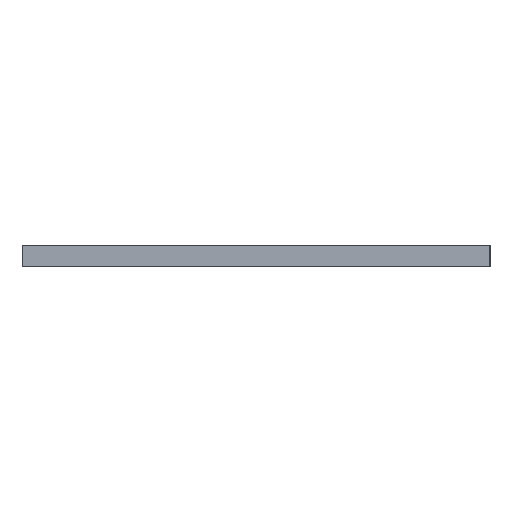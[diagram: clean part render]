
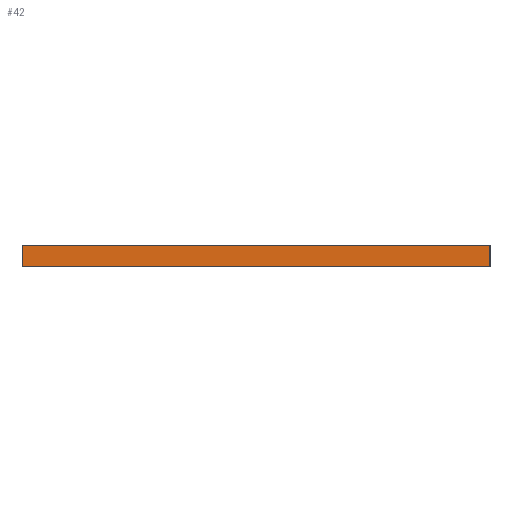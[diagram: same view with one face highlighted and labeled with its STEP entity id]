
A CAD part, left-side view. The second image highlights one B-rep face of the part: STEP entity #42.
In plain terms, the highlighted planar face has unit normal (-1, 0, 0).
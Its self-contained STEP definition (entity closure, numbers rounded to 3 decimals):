
#42=ADVANCED_FACE('',(#54),#358,.T.);
#54=FACE_OUTER_BOUND('',#66,.T.);
#66=EDGE_LOOP('',(#99,#100,#101,#102));
#99=ORIENTED_EDGE('',*,*,#251,.F.);
#100=ORIENTED_EDGE('',*,*,#255,.T.);
#101=ORIENTED_EDGE('',*,*,#256,.T.);
#102=ORIENTED_EDGE('',*,*,#257,.T.);
#143=PCURVE('',#357,#191);
#147=PCURVE('',#358,#195);
#148=PCURVE('',#358,#196);
#149=PCURVE('',#358,#197);
#150=PCURVE('',#358,#198);
#154=PCURVE('',#359,#202);
#156=PCURVE('',#360,#204);
#165=PCURVE('',#362,#213);
#191=DEFINITIONAL_REPRESENTATION('',(#300),#586);
#195=DEFINITIONAL_REPRESENTATION('',(#307),#586);
#196=DEFINITIONAL_REPRESENTATION('',(#309),#586);
#197=DEFINITIONAL_REPRESENTATION('',(#311),#586);
#198=DEFINITIONAL_REPRESENTATION('',(#313),#586);
#202=DEFINITIONAL_REPRESENTATION('',(#320),#586);
#204=DEFINITIONAL_REPRESENTATION('',(#322),#586);
#213=DEFINITIONAL_REPRESENTATION('',(#333),#586);
#227=SURFACE_CURVE('',#299,(#143,#147),.PCURVE_S1.);
#231=SURFACE_CURVE('',#308,(#148,#165),.PCURVE_S1.);
#232=SURFACE_CURVE('',#310,(#149,#154),.PCURVE_S1.);
#233=SURFACE_CURVE('',#312,(#150,#156),.PCURVE_S1.);
#251=EDGE_CURVE('',#343,#345,#227,.T.);
#255=EDGE_CURVE('',#343,#344,#231,.T.);
#256=EDGE_CURVE('',#344,#348,#232,.T.);
#257=EDGE_CURVE('',#348,#345,#233,.T.);
#299=B_SPLINE_CURVE_WITH_KNOTS('',1,(#513,#514),.UNSPECIFIED.,.F.,.F.,(2,
2),(-1940.,-990.),.UNSPECIFIED.);
#300=B_SPLINE_CURVE_WITH_KNOTS('',1,(#515,#516),.UNSPECIFIED.,.F.,.F.,(2,
2),(-1940.,-990.),.UNSPECIFIED.);
#307=B_SPLINE_CURVE_WITH_KNOTS('',1,(#529,#530),.UNSPECIFIED.,.F.,.F.,(2,
2),(-1940.,-990.),.UNSPECIFIED.);
#308=B_SPLINE_CURVE_WITH_KNOTS('',1,(#531,#532),.UNSPECIFIED.,.F.,.F.,(2,
2),(0.,20.),.UNSPECIFIED.);
#309=B_SPLINE_CURVE_WITH_KNOTS('',1,(#533,#534),.UNSPECIFIED.,.F.,.F.,(2,
2),(0.,20.),.UNSPECIFIED.);
#310=B_SPLINE_CURVE_WITH_KNOTS('',1,(#535,#536),.UNSPECIFIED.,.F.,.F.,(2,
2),(-1940.,-990.),.UNSPECIFIED.);
#311=B_SPLINE_CURVE_WITH_KNOTS('',1,(#537,#538),.UNSPECIFIED.,.F.,.F.,(2,
2),(-1940.,-990.),.UNSPECIFIED.);
#312=B_SPLINE_CURVE_WITH_KNOTS('',1,(#539,#540),.UNSPECIFIED.,.F.,.F.,(2,
2),(-20.,0.),.UNSPECIFIED.);
#313=B_SPLINE_CURVE_WITH_KNOTS('',1,(#541,#542),.UNSPECIFIED.,.F.,.F.,(2,
2),(-20.,0.),.UNSPECIFIED.);
#320=B_SPLINE_CURVE_WITH_KNOTS('',1,(#555,#556),.UNSPECIFIED.,.F.,.F.,(2,
2),(-1940.,-990.),.UNSPECIFIED.);
#322=B_SPLINE_CURVE_WITH_KNOTS('',1,(#559,#560),.UNSPECIFIED.,.F.,.F.,(2,
2),(-20.,0.),.UNSPECIFIED.);
#333=B_SPLINE_CURVE_WITH_KNOTS('',1,(#581,#582),.UNSPECIFIED.,.F.,.F.,(2,
2),(0.,20.),.UNSPECIFIED.);
#343=VERTEX_POINT('',#505);
#344=VERTEX_POINT('',#506);
#345=VERTEX_POINT('',#507);
#348=VERTEX_POINT('',#510);
#357=PLANE('',#389);
#358=PLANE('',#390);
#359=PLANE('',#391);
#360=PLANE('',#392);
#362=PLANE('',#394);
#389=AXIS2_PLACEMENT_3D('',#499,#404,$);
#390=AXIS2_PLACEMENT_3D('',#500,#405,$);
#391=AXIS2_PLACEMENT_3D('',#501,#406,$);
#392=AXIS2_PLACEMENT_3D('',#502,#407,$);
#394=AXIS2_PLACEMENT_3D('',#504,#409,$);
#404=DIRECTION('',(0.,0.,-1.));
#405=DIRECTION('',(-1.,0.,0.));
#406=DIRECTION('',(0.,0.,1.));
#407=DIRECTION('',(0.,1.,0.));
#409=DIRECTION('',(0.,-1.,0.));
#499=CARTESIAN_POINT('',(-650.,-544.,-136.));
#500=CARTESIAN_POINT('',(-650.,-544.,-136.));
#501=CARTESIAN_POINT('',(-650.,-544.,-96.));
#502=CARTESIAN_POINT('',(-650.,314.,-136.));
#504=CARTESIAN_POINT('',(-630.,-544.,-136.));
#505=CARTESIAN_POINT('',(-650.,-544.,-136.));
#506=CARTESIAN_POINT('',(-650.,-544.,-96.));
#507=CARTESIAN_POINT('',(-650.,314.,-136.));
#510=CARTESIAN_POINT('',(-650.,314.,-96.));
#513=CARTESIAN_POINT('',(-650.,-544.,-136.));
#514=CARTESIAN_POINT('',(-650.,314.,-136.));
#515=CARTESIAN_POINT('',(0.,0.));
#516=CARTESIAN_POINT('',(950.,0.));
#529=CARTESIAN_POINT('',(0.,-1940.));
#530=CARTESIAN_POINT('',(0.,-990.));
#531=CARTESIAN_POINT('',(-650.,-544.,-136.));
#532=CARTESIAN_POINT('',(-650.,-544.,-96.));
#533=CARTESIAN_POINT('',(0.,-1940.));
#534=CARTESIAN_POINT('',(20.,-1940.));
#535=CARTESIAN_POINT('',(-650.,-544.,-96.));
#536=CARTESIAN_POINT('',(-650.,314.,-96.));
#537=CARTESIAN_POINT('',(20.,-1940.));
#538=CARTESIAN_POINT('',(20.,-990.));
#539=CARTESIAN_POINT('',(-650.,314.,-96.));
#540=CARTESIAN_POINT('',(-650.,314.,-136.));
#541=CARTESIAN_POINT('',(20.,-990.));
#542=CARTESIAN_POINT('',(0.,-990.));
#555=CARTESIAN_POINT('',(0.,0.));
#556=CARTESIAN_POINT('',(0.,950.));
#559=CARTESIAN_POINT('',(20.,-990.));
#560=CARTESIAN_POINT('',(0.,-990.));
#581=CARTESIAN_POINT('',(0.,0.));
#582=CARTESIAN_POINT('',(20.,0.));
#586=(
GEOMETRIC_REPRESENTATION_CONTEXT(2)
PARAMETRIC_REPRESENTATION_CONTEXT()
REPRESENTATION_CONTEXT('pspace','')
);
